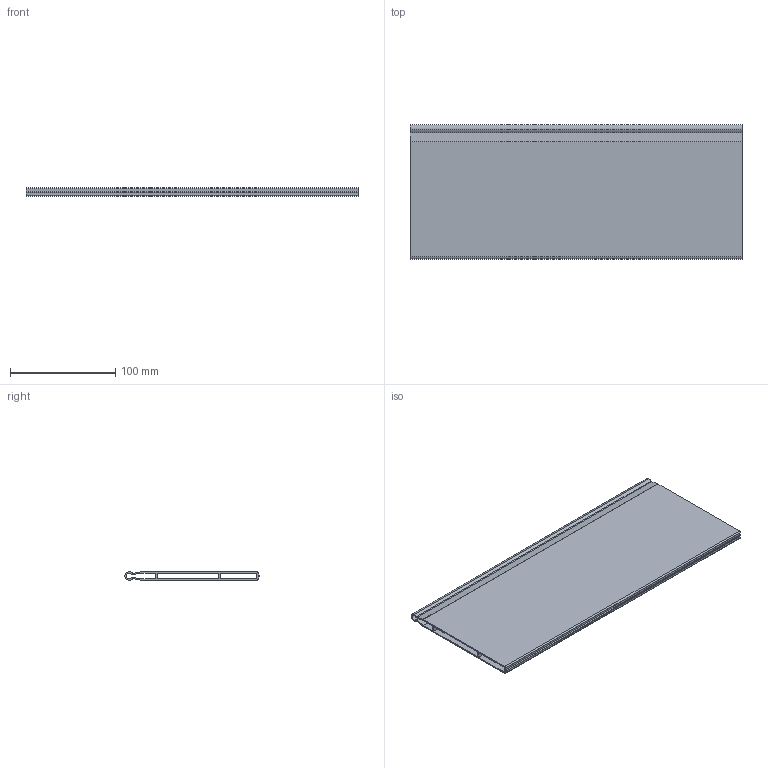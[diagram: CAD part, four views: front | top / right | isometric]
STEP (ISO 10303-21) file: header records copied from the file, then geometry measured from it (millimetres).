
FILE_DESCRIPTION (( 'STEP AP214' ), '1' );
FILE_NAME ('_Magic Optima Unterteilungsprofil DWD XP KAB 450.step', '2010-08-17T12:26:35', ( 'grass' ), ( '' ), 'SwSTEP 2.0', 'SolidWorks 2010', '' );
FILE_SCHEMA (( 'AUTOMOTIVE_DESIGN' ));
Length unit declared in the file: millimetre
Products named in the file (1): _Magic Optima Unterteilungsprofil DWD XP  KAB 450
Bounding box: 316 x 127.7 x 8.1 mm (x, y, z)
Volume: 110765.4 mm3; surface area: 172035.8 mm2
Topology: 1 solids, 1 shells, 39 faces, 111 edges, 74 vertices
Faces by surface type: plane 22, cylinder 17
Entity records: 1325 total; most frequent: DIRECTION 225, CARTESIAN_POINT 225, ORIENTED_EDGE 222, EDGE_CURVE 111, VECTOR 77, LINE 77, AXIS2_PLACEMENT_3D 74, VERTEX_POINT 74
